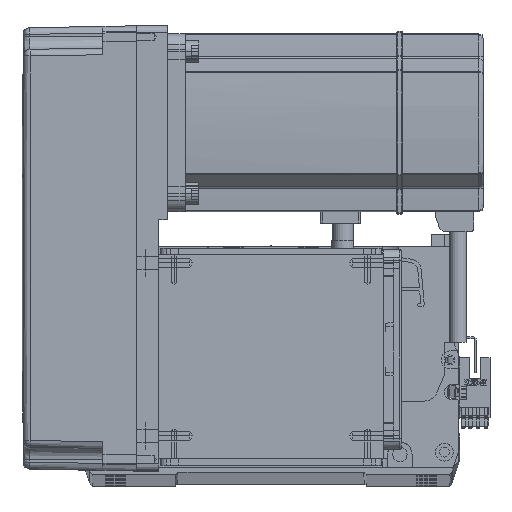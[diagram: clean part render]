
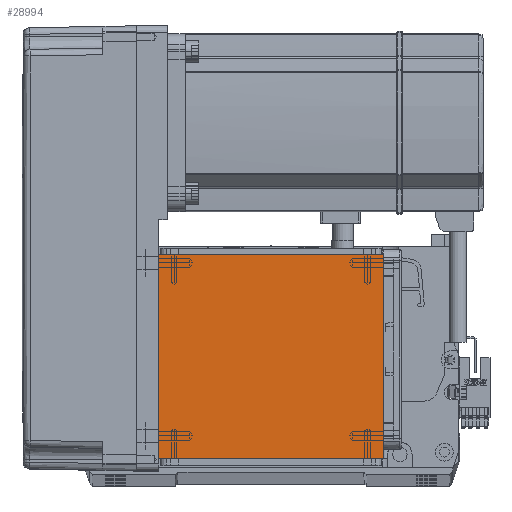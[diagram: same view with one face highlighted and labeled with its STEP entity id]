
A CAD part, top view. The second image highlights one B-rep face of the part: STEP entity #28994.
In plain terms, the highlighted planar face has unit normal (0, 0, 1).
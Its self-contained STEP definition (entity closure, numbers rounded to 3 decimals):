
#433 = DIRECTION ( 'NONE',  ( 0., 1., 0. ) ) ;
#435 = CARTESIAN_POINT ( 'NONE',  ( 50.5, 20., 115. ) ) ;
#2315 = VECTOR ( 'NONE', #433, 1000. ) ;
#5267 = DIRECTION ( 'NONE',  ( 1., 0., 0. ) ) ;
#6648 = FACE_OUTER_BOUND ( 'NONE', #43296, .T. ) ;
#11495 = VERTEX_POINT ( 'NONE', #37569 ) ;
#12299 = CARTESIAN_POINT ( 'NONE',  ( -50.5, 20., 115. ) ) ;
#13251 = VECTOR ( 'NONE', #38431, 1000. ) ;
#13976 = ORIENTED_EDGE ( 'NONE', *, *, #42646, .T. ) ;
#16427 = VERTEX_POINT ( 'NONE', #12299 ) ;
#17720 = LINE ( 'NONE', #35544, #33656 ) ;
#18806 = PLANE ( 'NONE',  #43051 ) ;
#19012 = DIRECTION ( 'NONE',  ( 0., 0., 1. ) ) ;
#20138 = EDGE_CURVE ( 'NONE', #11495, #50304, #17720, .T. ) ;
#22166 = DIRECTION ( 'NONE',  ( -1., 0., 0. ) ) ;
#24856 = LINE ( 'NONE', #47463, #45457 ) ;
#28994 = ADVANCED_FACE ( 'NONE', ( #6648 ), #18806, .T. ) ;
#29555 = VERTEX_POINT ( 'NONE', #435 ) ;
#29786 = CARTESIAN_POINT ( 'NONE',  ( 50.5, 111.5, 115. ) ) ;
#30993 = LINE ( 'NONE', #36467, #2315 ) ;
#32986 = EDGE_CURVE ( 'NONE', #29555, #16427, #24856, .T. ) ;
#33656 = VECTOR ( 'NONE', #5267, 1000. ) ;
#35544 = CARTESIAN_POINT ( 'NONE',  ( -70.004, 111.5, 115. ) ) ;
#36467 = CARTESIAN_POINT ( 'NONE',  ( 50.5, 122., 115. ) ) ;
#37569 = CARTESIAN_POINT ( 'NONE',  ( -50.5, 111.5, 115. ) ) ;
#38431 = DIRECTION ( 'NONE',  ( 0., -1., 0. ) ) ;
#42646 = EDGE_CURVE ( 'NONE', #29555, #50304, #30993, .T. ) ;
#43051 = AXIS2_PLACEMENT_3D ( 'NONE', #54312, #19012, #54526 ) ;
#43296 = EDGE_LOOP ( 'NONE', ( #61751, #54351, #47383, #13976 ) ) ;
#44211 = LINE ( 'NONE', #63097, #13251 ) ;
#45457 = VECTOR ( 'NONE', #22166, 1000. ) ;
#47383 = ORIENTED_EDGE ( 'NONE', *, *, #32986, .F. ) ;
#47463 = CARTESIAN_POINT ( 'NONE',  ( -70.004, 20., 115. ) ) ;
#50304 = VERTEX_POINT ( 'NONE', #29786 ) ;
#54312 = CARTESIAN_POINT ( 'NONE',  ( 0., 0., 115. ) ) ;
#54351 = ORIENTED_EDGE ( 'NONE', *, *, #56124, .T. ) ;
#54526 = DIRECTION ( 'NONE',  ( 1., 0., 0. ) ) ;
#56124 = EDGE_CURVE ( 'NONE', #11495, #16427, #44211, .T. ) ;
#61751 = ORIENTED_EDGE ( 'NONE', *, *, #20138, .F. ) ;
#63097 = CARTESIAN_POINT ( 'NONE',  ( -50.5, 122., 115. ) ) ;
